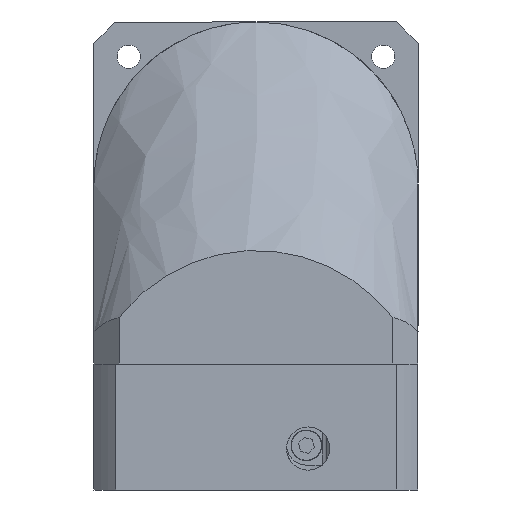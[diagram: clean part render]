
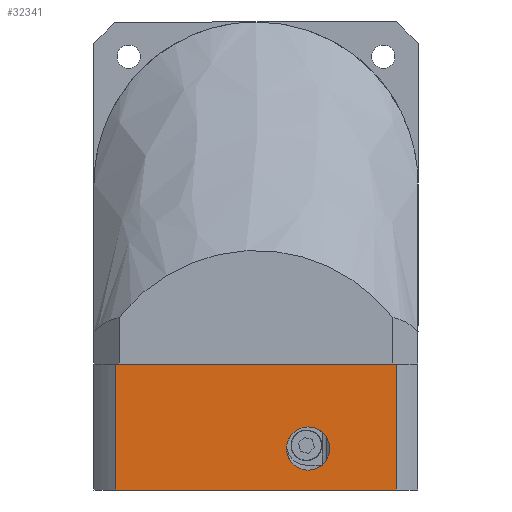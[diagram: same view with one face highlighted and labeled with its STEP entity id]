
A CAD part, front view. The second image highlights one B-rep face of the part: STEP entity #32341.
In plain terms, the highlighted planar face has unit normal (0, -1, 0) as drawn and (0, 0, 1) by its records, which use the part's own axes.
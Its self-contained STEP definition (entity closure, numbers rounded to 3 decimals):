
#189 = VECTOR ( 'NONE', #21902, 1000. ) ;
#685 = AXIS2_PLACEMENT_3D ( 'NONE', #38579, #15028, #42508 ) ;
#1153 = EDGE_CURVE ( 'NONE', #44466, #19550, #13287, .T. ) ;
#2035 = CIRCLE ( 'NONE', #6933, 6. ) ;
#2263 = CARTESIAN_POINT ( 'NONE',  ( 11.5, -14.5, 45. ) ) ;
#3652 = ORIENTED_EDGE ( 'NONE', *, *, #1153, .T. ) ;
#6061 = VERTEX_POINT ( 'NONE', #37570 ) ;
#6187 = DIRECTION ( 'NONE',  ( 1., 0., 0. ) ) ;
#6600 = EDGE_CURVE ( 'NONE', #22452, #10549, #20952, .T. ) ;
#6933 = AXIS2_PLACEMENT_3D ( 'NONE', #2263, #29572, #6187 ) ;
#10549 = VERTEX_POINT ( 'NONE', #44225 ) ;
#11370 = EDGE_LOOP ( 'NONE', ( #25683, #42027 ) ) ;
#13287 = LINE ( 'NONE', #16660, #32883 ) ;
#14398 = CARTESIAN_POINT ( 'NONE',  ( 0., -38.926, 45. ) ) ;
#14993 = LINE ( 'NONE', #48336, #34622 ) ;
#15028 = DIRECTION ( 'NONE',  ( 0., 0., -1. ) ) ;
#15117 = VERTEX_POINT ( 'NONE', #35915 ) ;
#15578 = PLANE ( 'NONE',  #29844 ) ;
#16054 = DIRECTION ( 'NONE',  ( 0., -1., 0. ) ) ;
#16660 = CARTESIAN_POINT ( 'NONE',  ( 0., -45., 45. ) ) ;
#16921 = EDGE_CURVE ( 'NONE', #15117, #6061, #34617, .T. ) ;
#16944 = DIRECTION ( 'NONE',  ( 1., 0., 0. ) ) ;
#18010 = EDGE_CURVE ( 'NONE', #19550, #22452, #14993, .T. ) ;
#18478 = CARTESIAN_POINT ( 'NONE',  ( 0., 38.926, 45. ) ) ;
#19518 = DIRECTION ( 'NONE',  ( 0., 0., 1. ) ) ;
#19550 = VERTEX_POINT ( 'NONE', #14398 ) ;
#20952 = LINE ( 'NONE', #22347, #189 ) ;
#21614 = FACE_OUTER_BOUND ( 'NONE', #48087, .T. ) ;
#21902 = DIRECTION ( 'NONE',  ( 0., 1., 0. ) ) ;
#22347 = CARTESIAN_POINT ( 'NONE',  ( 35., 59.5, 45. ) ) ;
#22452 = VERTEX_POINT ( 'NONE', #43424 ) ;
#25683 = ORIENTED_EDGE ( 'NONE', *, *, #16921, .T. ) ;
#29572 = DIRECTION ( 'NONE',  ( 0., 0., -1. ) ) ;
#29844 = AXIS2_PLACEMENT_3D ( 'NONE', #35137, #19518, #46975 ) ;
#30037 = EDGE_CURVE ( 'NONE', #44466, #10549, #30319, .T. ) ;
#30319 = LINE ( 'NONE', #44758, #50003 ) ;
#31757 = ORIENTED_EDGE ( 'NONE', *, *, #30037, .F. ) ;
#32341 = ADVANCED_FACE ( 'NONE', ( #21614, #42521 ), #15578, .T. ) ;
#32883 = VECTOR ( 'NONE', #16054, 1000. ) ;
#34617 = CIRCLE ( 'NONE', #685, 6. ) ;
#34622 = VECTOR ( 'NONE', #16944, 1000. ) ;
#34746 = ORIENTED_EDGE ( 'NONE', *, *, #6600, .T. ) ;
#35137 = CARTESIAN_POINT ( 'NONE',  ( 59., -45., 45. ) ) ;
#35915 = CARTESIAN_POINT ( 'NONE',  ( 17.5, -14.5, 45. ) ) ;
#37570 = CARTESIAN_POINT ( 'NONE',  ( 5.5, -14.5, 45. ) ) ;
#38579 = CARTESIAN_POINT ( 'NONE',  ( 11.5, -14.5, 45. ) ) ;
#42027 = ORIENTED_EDGE ( 'NONE', *, *, #48211, .T. ) ;
#42508 = DIRECTION ( 'NONE',  ( 1., 0., 0. ) ) ;
#42521 = FACE_BOUND ( 'NONE', #11370, .T. ) ;
#43424 = CARTESIAN_POINT ( 'NONE',  ( 35., -38.926, 45. ) ) ;
#44225 = CARTESIAN_POINT ( 'NONE',  ( 35., 38.926, 45. ) ) ;
#44466 = VERTEX_POINT ( 'NONE', #18478 ) ;
#44758 = CARTESIAN_POINT ( 'NONE',  ( 0., 38.926, 45. ) ) ;
#46975 = DIRECTION ( 'NONE',  ( 1., 0., 0. ) ) ;
#47917 = ORIENTED_EDGE ( 'NONE', *, *, #18010, .T. ) ;
#48087 = EDGE_LOOP ( 'NONE', ( #47917, #34746, #31757, #3652 ) ) ;
#48211 = EDGE_CURVE ( 'NONE', #6061, #15117, #2035, .T. ) ;
#48336 = CARTESIAN_POINT ( 'NONE',  ( 59., -38.926, 45. ) ) ;
#48683 = DIRECTION ( 'NONE',  ( 1., 0., 0. ) ) ;
#50003 = VECTOR ( 'NONE', #48683, 1000. ) ;
